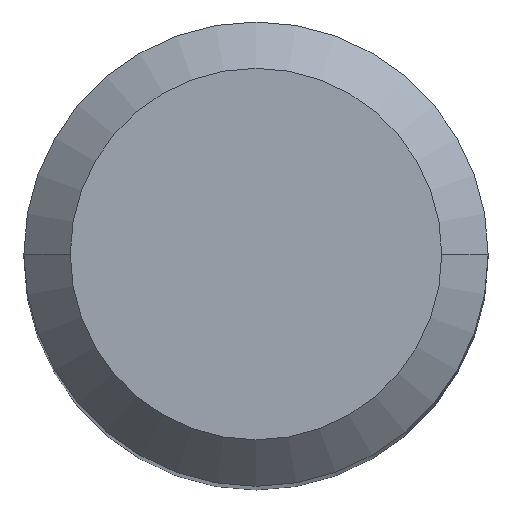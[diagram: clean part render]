
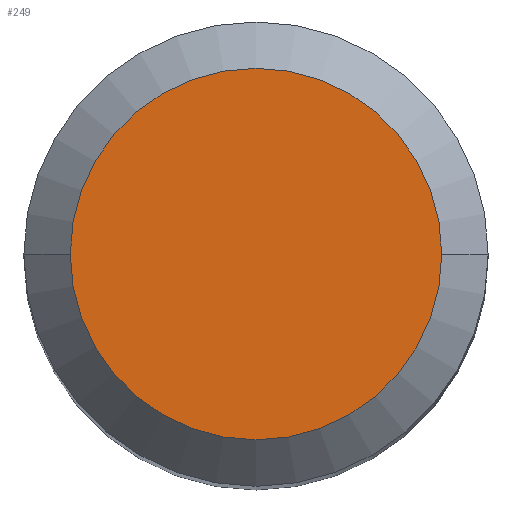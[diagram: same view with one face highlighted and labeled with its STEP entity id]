
A CAD part, top view. The second image highlights one B-rep face of the part: STEP entity #249.
In plain terms, the highlighted planar face has unit normal (0, 0, 1).
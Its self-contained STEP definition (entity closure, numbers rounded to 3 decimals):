
#17 = CARTESIAN_POINT ( 'NONE',  ( 0., 3.2, 0. ) ) ;
#36 = CIRCLE ( 'NONE', #59, 3.2 ) ;
#54 = FACE_OUTER_BOUND ( 'NONE', #312, .T. ) ;
#59 = AXIS2_PLACEMENT_3D ( 'NONE', #178, #217, #342 ) ;
#98 = CIRCLE ( 'NONE', #572, 3.2 ) ;
#118 = DIRECTION ( 'NONE',  ( -1., 0., 0. ) ) ;
#135 = CARTESIAN_POINT ( 'NONE',  ( 3.2, 0., 0. ) ) ;
#154 = CARTESIAN_POINT ( 'NONE',  ( -3.2, 0., 0. ) ) ;
#163 = CARTESIAN_POINT ( 'NONE',  ( 0., 0., 0. ) ) ;
#178 = CARTESIAN_POINT ( 'NONE',  ( 0., 0., 0. ) ) ;
#217 = DIRECTION ( 'NONE',  ( 0., 0., -1. ) ) ;
#226 = ORIENTED_EDGE ( 'NONE', *, *, #393, .F. ) ;
#244 = PLANE ( 'NONE',  #405 ) ;
#249 = ADVANCED_FACE ( 'NONE', ( #54 ), #244, .T. ) ;
#286 = VERTEX_POINT ( 'NONE', #154 ) ;
#312 = EDGE_LOOP ( 'NONE', ( #387, #226 ) ) ;
#342 = DIRECTION ( 'NONE',  ( -1., 0., 0. ) ) ;
#373 = DIRECTION ( 'NONE',  ( 0., 0., 1. ) ) ;
#387 = ORIENTED_EDGE ( 'NONE', *, *, #563, .F. ) ;
#393 = EDGE_CURVE ( 'NONE', #463, #286, #98, .T. ) ;
#405 = AXIS2_PLACEMENT_3D ( 'NONE', #17, #373, #554 ) ;
#463 = VERTEX_POINT ( 'NONE', #135 ) ;
#526 = DIRECTION ( 'NONE',  ( 0., 0., -1. ) ) ;
#554 = DIRECTION ( 'NONE',  ( 1., 0., 0. ) ) ;
#563 = EDGE_CURVE ( 'NONE', #286, #463, #36, .T. ) ;
#572 = AXIS2_PLACEMENT_3D ( 'NONE', #163, #526, #118 ) ;
